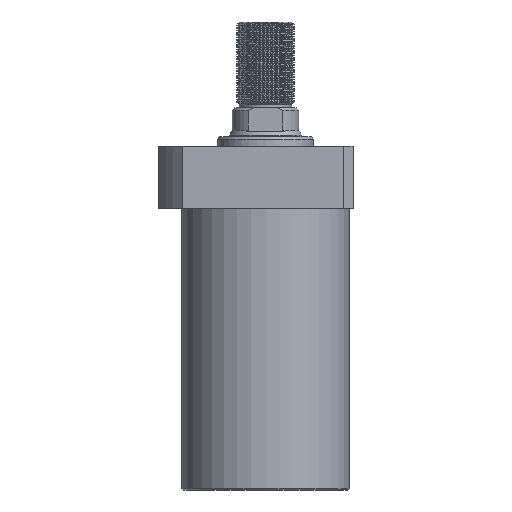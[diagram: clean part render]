
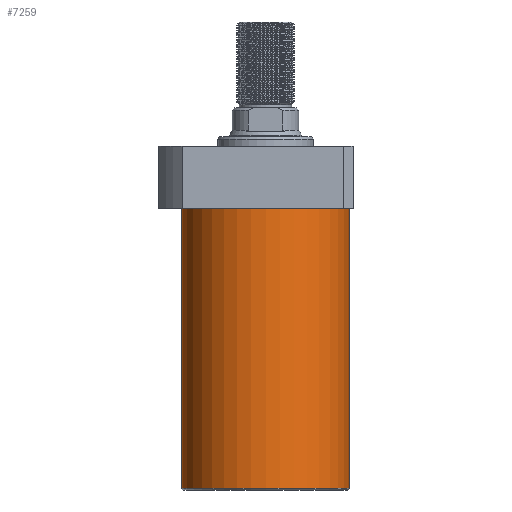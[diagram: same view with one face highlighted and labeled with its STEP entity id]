
A CAD part, front view. The second image highlights one B-rep face of the part: STEP entity #7259.
In plain terms, the highlighted cylindrical face has radius 52.5 mm (diameter 105 mm), a partial arc.
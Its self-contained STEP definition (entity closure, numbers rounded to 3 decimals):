
#15 = CARTESIAN_POINT ( 'NONE',  ( -52.5, 0., -196.5 ) ) ;
#122 = VERTEX_POINT ( 'NONE', #7394 ) ;
#270 = ORIENTED_EDGE ( 'NONE', *, *, #5977, .T. ) ;
#412 = DIRECTION ( 'NONE',  ( 0., 0., -1. ) ) ;
#433 = DIRECTION ( 'NONE',  ( 1., 0., 0. ) ) ;
#637 = EDGE_LOOP ( 'NONE', ( #4549, #5077, #3319, #270 ) ) ;
#883 = DIRECTION ( 'NONE',  ( -1., 0., 0. ) ) ;
#915 = DIRECTION ( 'NONE',  ( 0., 0., 1. ) ) ;
#1293 = LINE ( 'NONE', #5904, #2791 ) ;
#1445 = VERTEX_POINT ( 'NONE', #2301 ) ;
#1514 = EDGE_CURVE ( 'NONE', #4664, #1445, #8125, .T. ) ;
#1516 = CARTESIAN_POINT ( 'NONE',  ( 0., 0., -195.5 ) ) ;
#2049 = CYLINDRICAL_SURFACE ( 'NONE', #7088, 52.5 ) ;
#2227 = CARTESIAN_POINT ( 'NONE',  ( 0., 0., -196.5 ) ) ;
#2301 = CARTESIAN_POINT ( 'NONE',  ( 52.5, 0., -195.5 ) ) ;
#2428 = CARTESIAN_POINT ( 'NONE',  ( 52.5, 0., -19.5 ) ) ;
#2791 = VECTOR ( 'NONE', #3447, 1000. ) ;
#3177 = VECTOR ( 'NONE', #7551, 1000. ) ;
#3319 = ORIENTED_EDGE ( 'NONE', *, *, #4868, .T. ) ;
#3344 = AXIS2_PLACEMENT_3D ( 'NONE', #1516, #915, #883 ) ;
#3447 = DIRECTION ( 'NONE',  ( 0., 0., 1. ) ) ;
#3467 = CIRCLE ( 'NONE', #7549, 52.5 ) ;
#4179 = CARTESIAN_POINT ( 'NONE',  ( 0., 0., -19.5 ) ) ;
#4230 = DIRECTION ( 'NONE',  ( 0., 0., 1. ) ) ;
#4244 = CARTESIAN_POINT ( 'NONE',  ( -52.5, 0., -195.5 ) ) ;
#4549 = ORIENTED_EDGE ( 'NONE', *, *, #5589, .F. ) ;
#4664 = VERTEX_POINT ( 'NONE', #4244 ) ;
#4811 = DIRECTION ( 'NONE',  ( 1., 0., 0. ) ) ;
#4868 = EDGE_CURVE ( 'NONE', #1445, #6120, #1293, .T. ) ;
#5077 = ORIENTED_EDGE ( 'NONE', *, *, #1514, .T. ) ;
#5404 = LINE ( 'NONE', #15, #3177 ) ;
#5546 = FACE_OUTER_BOUND ( 'NONE', #637, .T. ) ;
#5589 = EDGE_CURVE ( 'NONE', #4664, #122, #5404, .T. ) ;
#5904 = CARTESIAN_POINT ( 'NONE',  ( 52.5, 0., -196.5 ) ) ;
#5977 = EDGE_CURVE ( 'NONE', #6120, #122, #3467, .T. ) ;
#6120 = VERTEX_POINT ( 'NONE', #2428 ) ;
#7088 = AXIS2_PLACEMENT_3D ( 'NONE', #2227, #4230, #433 ) ;
#7259 = ADVANCED_FACE ( 'NONE', ( #5546 ), #2049, .T. ) ;
#7394 = CARTESIAN_POINT ( 'NONE',  ( -52.5, 0., -19.5 ) ) ;
#7549 = AXIS2_PLACEMENT_3D ( 'NONE', #4179, #412, #4811 ) ;
#7551 = DIRECTION ( 'NONE',  ( 0., 0., 1. ) ) ;
#8125 = CIRCLE ( 'NONE', #3344, 52.5 ) ;
